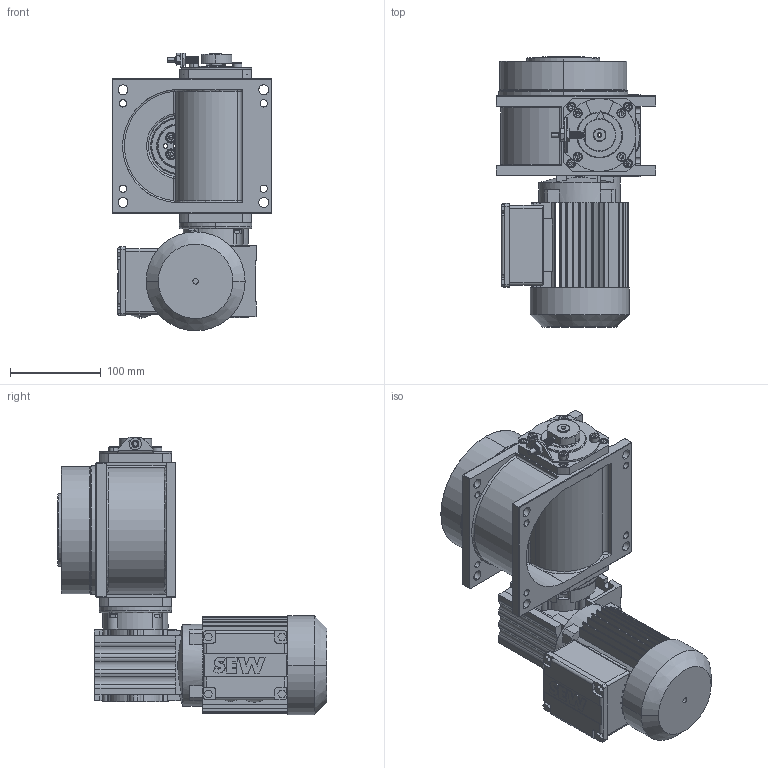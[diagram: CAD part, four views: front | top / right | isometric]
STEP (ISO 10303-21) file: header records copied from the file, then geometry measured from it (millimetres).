
FILE_DESCRIPTION (( 'STEP AP214' ), '1' );
FILE_NAME ('M140_SEW_WAF10DT56L4_D2.STEP', '2021-01-22T15:43:04', ( '' ), ( '' ), 'SwSTEP 2.0', 'SolidWorks 2020', '' );
FILE_SCHEMA (( 'AUTOMOTIVE_DESIGN' ));
Length unit declared in the file: millimetre
Products named in the file (1): M140_SEW_WAF10DT56L4_D2
Bounding box: 176 x 297.2 x 305.79 mm (x, y, z)
Surface area: 384054.9 mm2 (no closed solid volume)
Topology: 0 solids, 47 shells, 1298 faces, 4364 edges, 2930 vertices
Faces by surface type: plane 643, cylinder 464, cone 88, bspline 55, torus 48
Entity records: 67408 total; most frequent: CARTESIAN_POINT 15829, DIRECTION 7811, ORIENTED_EDGE 7260, EDGE_CURVE 4339, VERTEX_POINT 2930, AXIS2_PLACEMENT_3D 2625, VECTOR 2561, LINE 2561
